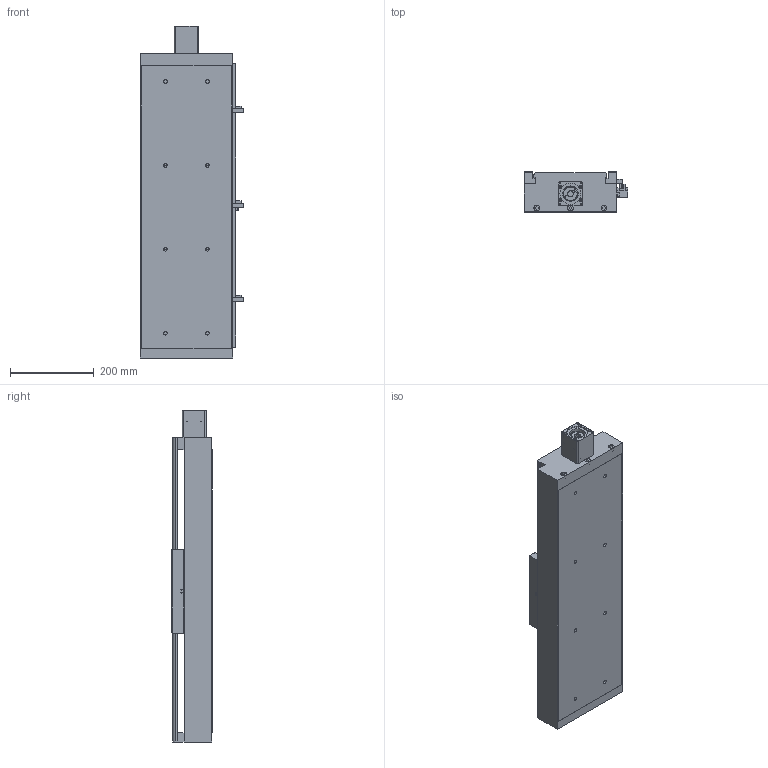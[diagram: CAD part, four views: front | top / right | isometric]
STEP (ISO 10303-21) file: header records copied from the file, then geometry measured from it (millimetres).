
FILE_DESCRIPTION((''),'2;1');
FILE_NAME('E:\libraries\UIA actuator library 2016\standard actuator\UIA220R20NDC\UIA220R20NDC ball screw 25\UIA220R20NDC-_ _ _-R25_ _ stp file, 01May16\UIA220R20NDC-450-R25_ _-M60-P13-C10-S.stp','2016-04-29T17:27:04',('h029'),(''),'Autodesk Inventor 11','Autodesk Inventor 11','');
FILE_SCHEMA(('AUTOMOTIVE_DESIGN { 1 0 10303 214 1 1 1 1 }'));
Length unit declared in the file: millimetre
Products named in the file (10): UIA220R20NDC-450-R25_ _; UIA220R20NDC-body; 41-100 0010 CARRIAGE; sensor rail; Sensor Switch; motor mount M60; SOH-32C; SOH-32C-3; SOH-32C-1; SOH-32C-2
Assembly tree (9 placements, depth 3):
  UIA220R20NDC-450-R25_ _
    UIA220R20NDC-body
    41-100 0010 CARRIAGE
    sensor rail
    Sensor Switch
    motor mount M60
    SOH-32C
      SOH-32C-3
      SOH-32C-1
      SOH-32C-2
Bounding box: 246.5 x 96 x 791 mm (x, y, z)
Volume: 5088806.3 mm3; surface area: 1137084.6 mm2
Topology: 8 solids, 8 shells, 511 faces, 1365 edges, 897 vertices
Faces by surface type: plane 342, bspline 121, cylinder 46, cone 2
Full cylindrical faces by diameter (mm): 3.242 x2, 4.5 x2, 7 x4, 7.5 x2, 13.8 x3, 14 x6, 17 x1, 32 x3, 37 x1, 50.3 x1, 50.5 x1
Entity records: 16706 total; most frequent: CARTESIAN_POINT 4729, ORIENTED_EDGE 2328, DIRECTION 2277, EDGE_CURVE 1164, VECTOR 849, LINE 849, VERTEX_POINT 823, EDGE_LOOP 741
